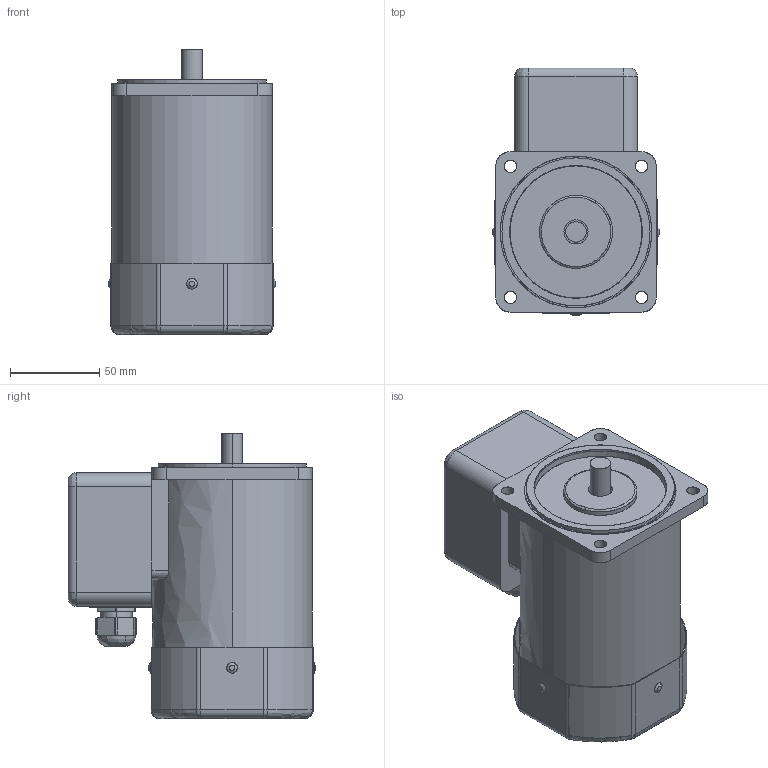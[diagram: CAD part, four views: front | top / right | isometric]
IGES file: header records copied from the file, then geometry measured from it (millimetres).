
Start section: SolidWorks IGES file using analytic representation for surfaces
Bounding box: 94 x 139 x 160 mm (x, y, z)
Surface area: 161267.7 mm2 (no closed solid volume)
Topology: 0 solids, 0 shells, 304 faces, 4808 edges, 4792 vertices
Faces by surface type: bspline 168, revolution 136
